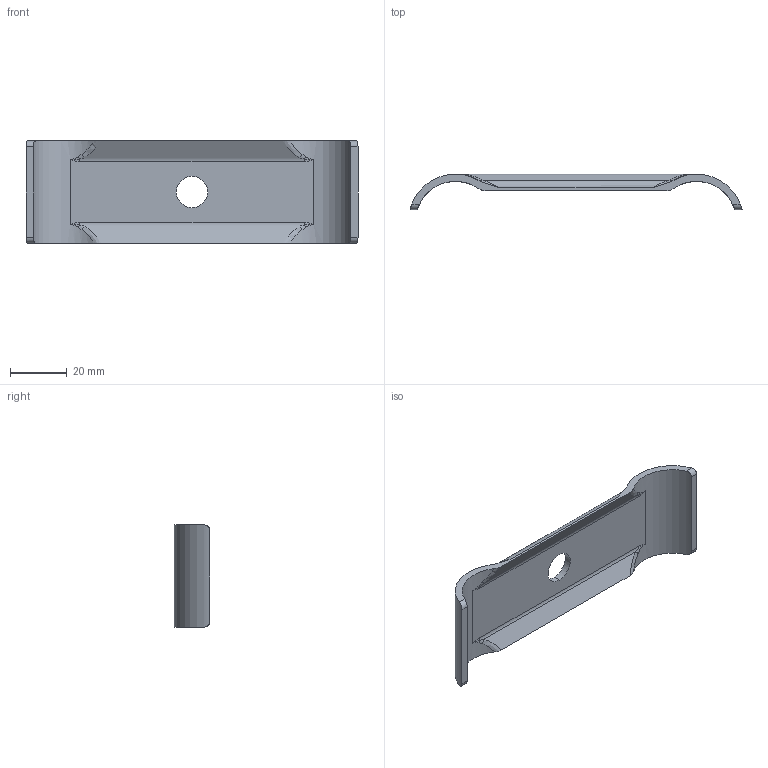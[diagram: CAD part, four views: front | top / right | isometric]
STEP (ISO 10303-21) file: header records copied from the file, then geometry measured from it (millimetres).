
FILE_DESCRIPTION (( 'STEP AP203' ), '1' );
FILE_NAME ('015.300.005.STEP', '2016-10-24T08:48:32', ( '' ), ( '' ), 'SwSTEP 2.0', 'SolidWorks 2016', '' );
FILE_SCHEMA (( 'CONFIG_CONTROL_DESIGN' ));
Length unit declared in the file: millimetre
Products named in the file (1): 015.300.005
Bounding box: 117.03 x 12.53 x 36 mm (x, y, z)
Volume: 11205.7 mm3; surface area: 9896.8 mm2
Topology: 1 solids, 1 shells, 64 faces, 174 edges, 92 vertices
Faces by surface type: bspline 36, cylinder 16, plane 12
Entity records: 2739 total; most frequent: CARTESIAN_POINT 1491, ORIENTED_EDGE 308, DIRECTION 156, EDGE_CURVE 154, VERTEX_POINT 92, B_SPLINE_CURVE_WITH_KNOTS 72, EDGE_LOOP 66, FACE_OUTER_BOUND 64
